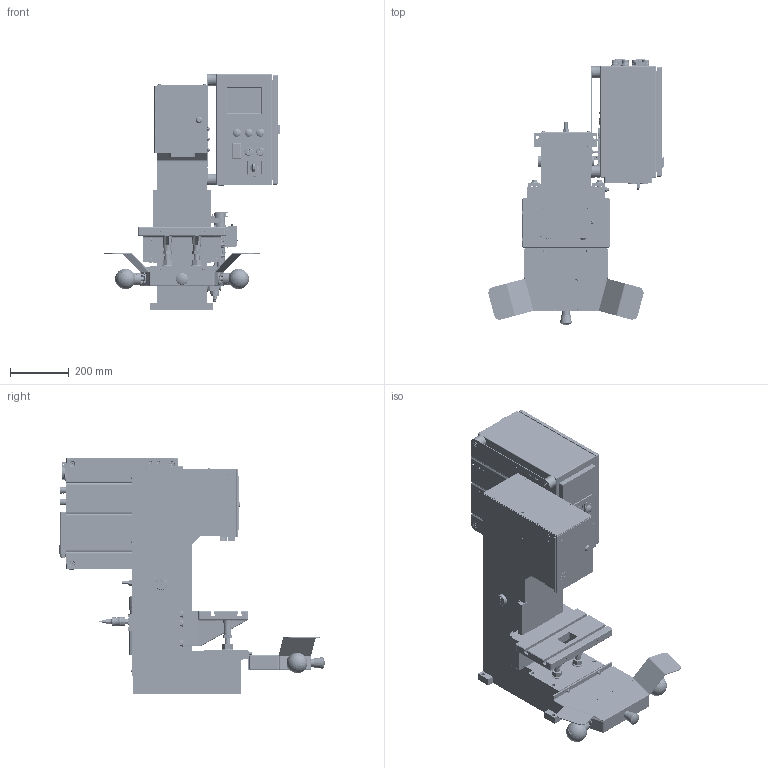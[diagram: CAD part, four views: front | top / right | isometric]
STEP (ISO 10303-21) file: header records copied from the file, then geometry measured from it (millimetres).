
FILE_DESCRIPTION(/* description */ (''),/* implementation_level */ '2;1');
FILE_NAME(/* name */ 'P:\CAD-Daten-für-Kunden\07_Pressen KHP\01_KHP Standard\mit SpiceFlex\Presse_KHP_030kN_G700_Hub40_ANR18482+SpiceFlex.stp',/* time_stamp */ '2021-09-14T07:32:36+02:00',/* author */ ('tse'),/* organization */ (''),/* preprocessor_version */ 'ST-DEVELOPER v18',/* originating_system */ 'Autodesk Inventor 2020',/* authorisation */ '');
FILE_SCHEMA (('AUTOMOTIVE_DESIGN { 1 0 10303 214 3 1 1 }'));
Products named in the file (9): Presse_KHP_20kN_G700_Hub40+V_ANR31990+SpiceFlex; Ständereinheit_KHP_20-30kN_G700_V; Tischeinheit_KHP_20-30kN_ANR18477; Schlittendummy_KHP_20-30kN_ANR18473; SpiceFlex_Steuerkasten_ANR_29954; Zweihand_Tasterkasten_mit_Safeballs_und_Not-Aus_ANR_30032; Pneumatik_KHP_1_4kN; 18902; 18903
Assembly tree (8 placements, depth 2):
  Presse_KHP_20kN_G700_Hub40+V_ANR31990+SpiceFlex
    Ständereinheit_KHP_20-30kN_G700_V
    Tischeinheit_KHP_20-30kN_ANR18477
    Schlittendummy_KHP_20-30kN_ANR18473
    SpiceFlex_Steuerkasten_ANR_29954
    Zweihand_Tasterkasten_mit_Safeballs_und_Not-Aus_ANR_30032
    Pneumatik_KHP_1_4kN
    18902
    18903
Bounding box: 598.47 x 907.01 x 805 mm (x, y, z)
Volume: 39102531.9 mm3; surface area: 4565484.8 mm2
Topology: 57 solids, 123 shells, 19993 faces, 54531 edges, 36207 vertices
Faces by surface type: plane 11522, bspline 4197, cylinder 2972, cone 966, torus 211, sphere 125
Full cylindrical faces by diameter (mm): 0.4 x1, 0.474 x2, 0.98 x3, 1.1 x80, 1.6 x5, 1.9 x4, 2 x9, 2.013 x1, 2.1 x8, 2.387 x4, 2.4 x4, 2.459 x35, 2.5 x9, 2.6 x30, 3 x24, 3.141 x8, 3.2 x33, 3.242 x19, 3.5 x2, 3.7 x16, 3.8 x1, 4 x39, 4.1 x20, 4.134 x9, 4.2 x4, 4.3 x2, 4.4 x4, 4.5 x22, 4.8 x5, 4.917 x18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
Entity records: 697583 total; most frequent: CARTESIAN_POINT 192628, ORIENTED_EDGE 108746, DIRECTION 85936, EDGE_CURVE 54373, VERTEX_POINT 36213, LINE 34172, VECTOR 34172, AXIS2_PLACEMENT_3D 25882
